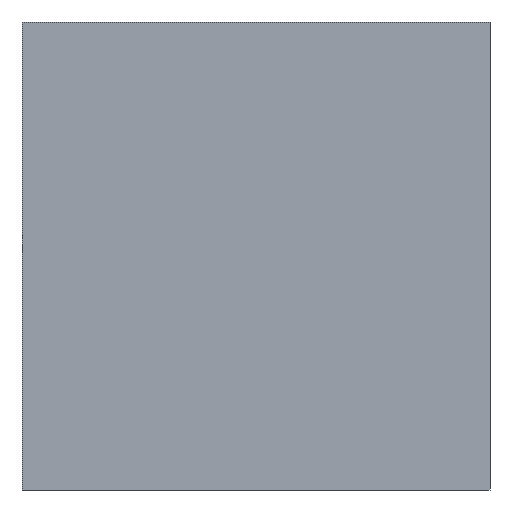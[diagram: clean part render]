
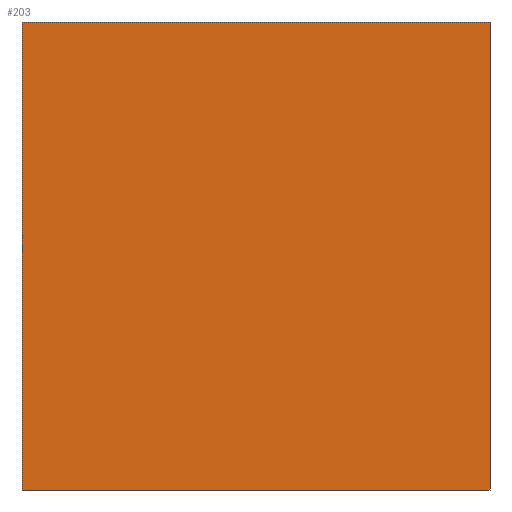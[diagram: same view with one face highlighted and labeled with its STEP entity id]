
A CAD part, left-side view. The second image highlights one B-rep face of the part: STEP entity #203.
In plain terms, the highlighted planar face has unit normal (-1, 0, 0).
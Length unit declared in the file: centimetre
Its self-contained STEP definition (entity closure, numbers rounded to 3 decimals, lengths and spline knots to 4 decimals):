
#2 = VERTEX_POINT ( 'NONE', #161 ) ;
#3 = CARTESIAN_POINT ( 'NONE',  ( 0., 1000., 1000. ) ) ;
#6 = DIRECTION ( 'NONE',  ( 1., 0., 0. ) ) ;
#9 = CARTESIAN_POINT ( 'NONE',  ( 0., 1000., 0. ) ) ;
#13 = CARTESIAN_POINT ( 'NONE',  ( 0., 0., 1000. ) ) ;
#14 = VECTOR ( 'NONE', #327, 100. ) ;
#17 = CARTESIAN_POINT ( 'NONE',  ( 0., 1000., 0. ) ) ;
#50 = VERTEX_POINT ( 'NONE', #9 ) ;
#60 = CARTESIAN_POINT ( 'NONE',  ( 0., 1000., 1000. ) ) ;
#65 = CARTESIAN_POINT ( 'NONE',  ( 0., 1000., 1000. ) ) ;
#68 = CARTESIAN_POINT ( 'NONE',  ( 0., 1000., 1000. ) ) ;
#119 = VECTOR ( 'NONE', #343, 100. ) ;
#120 = VERTEX_POINT ( 'NONE', #13 ) ;
#124 = LINE ( 'NONE', #3, #119 ) ;
#140 = ORIENTED_EDGE ( 'NONE', *, *, #291, .F. ) ;
#159 = EDGE_CURVE ( 'NONE', #120, #2, #212, .T. ) ;
#161 = CARTESIAN_POINT ( 'NONE',  ( 0., 0., 0. ) ) ;
#163 = EDGE_CURVE ( 'NONE', #50, #2, #166, .T. ) ;
#166 = LINE ( 'NONE', #17, #14 ) ;
#175 = DIRECTION ( 'NONE',  ( 0., -1., 0. ) ) ;
#180 = DIRECTION ( 'NONE',  ( 0., 0., -1. ) ) ;
#190 = AXIS2_PLACEMENT_3D ( 'NONE', #65, #6, #180 ) ;
#202 = ORIENTED_EDGE ( 'NONE', *, *, #163, .T. ) ;
#203 = ADVANCED_FACE ( 'NONE', ( #232 ), #210, .F. ) ;
#209 = ORIENTED_EDGE ( 'NONE', *, *, #159, .F. ) ;
#210 = PLANE ( 'NONE',  #190 ) ;
#212 = LINE ( 'NONE', #348, #282 ) ;
#232 = FACE_OUTER_BOUND ( 'NONE', #326, .T. ) ;
#234 = EDGE_CURVE ( 'NONE', #238, #50, #124, .T. ) ;
#238 = VERTEX_POINT ( 'NONE', #68 ) ;
#250 = VECTOR ( 'NONE', #175, 100. ) ;
#282 = VECTOR ( 'NONE', #324, 100. ) ;
#291 = EDGE_CURVE ( 'NONE', #238, #120, #339, .T. ) ;
#324 = DIRECTION ( 'NONE',  ( 0., 0., -1. ) ) ;
#326 = EDGE_LOOP ( 'NONE', ( #202, #209, #140, #328 ) ) ;
#327 = DIRECTION ( 'NONE',  ( 0., -1., 0. ) ) ;
#328 = ORIENTED_EDGE ( 'NONE', *, *, #234, .T. ) ;
#339 = LINE ( 'NONE', #60, #250 ) ;
#343 = DIRECTION ( 'NONE',  ( 0., 0., -1. ) ) ;
#348 = CARTESIAN_POINT ( 'NONE',  ( 0., 0., 1000. ) ) ;
